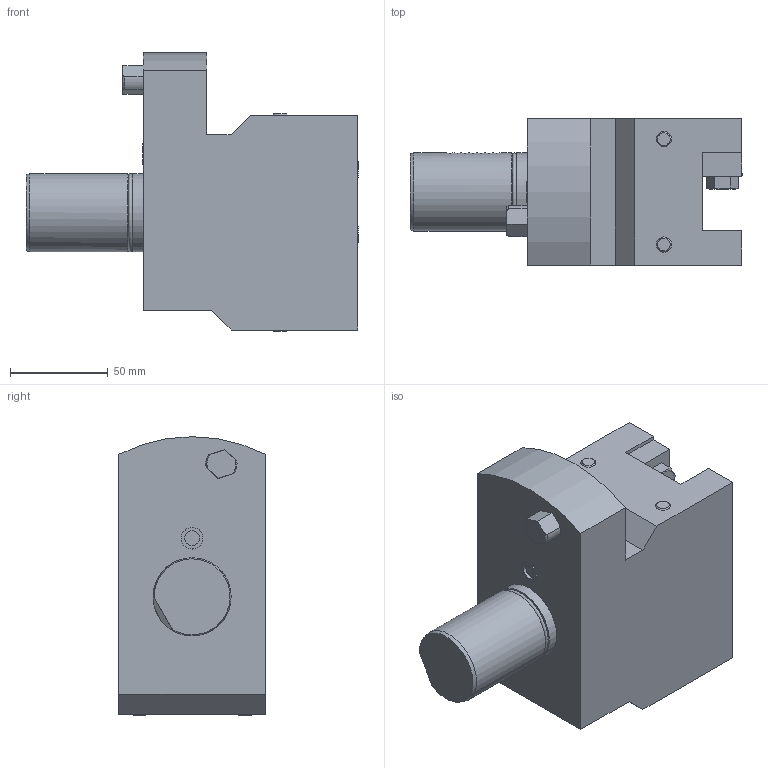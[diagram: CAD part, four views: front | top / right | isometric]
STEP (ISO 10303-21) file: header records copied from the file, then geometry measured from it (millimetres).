
FILE_DESCRIPTION(/* description */ (''),/* implementation_level */ '2;1');
FILE_NAME(/* name */ '118000',/* time_stamp */ '2020-12-22T08:06:11+01:00',/* author */ (''),/* organization */ (''),/* preprocessor_version */ 'ST-DEVELOPER v16.5',/* originating_system */ 'HiCAD 2017 2201.0 Build 268',/* authorisation */ '');
FILE_SCHEMA (('AUTOMOTIVE_DESIGN { 1 0 10303 214 1 1 1 1 }'));
Length unit declared in the file: millimetre
Products named in the file (2): Root; Teil
Assembly tree (1 placements, depth 2):
  Root
    Teil
Bounding box: 170 x 75.1 x 142.66 mm (x, y, z)
Volume: 943609.2 mm3; surface area: 77598.1 mm2
Topology: 1 solids, 3 shells, 283 faces, 706 edges, 468 vertices
Faces by surface type: plane 197, bspline 46, cylinder 23, cone 10, sphere 4, torus 3
Full cylindrical faces by diameter (mm): 6.6 x2, 7.65 x1, 10 x2, 11 x2, 11.01 x1, 11.1 x1, 36.5 x2, 40 x2
Entity records: 17505 total; most frequent: CARTESIAN_POINT 3914, PRESENTATION_STYLE_ASSIGNMENT 1462, OVER_RIDING_STYLED_ITEM 1461, COLOUR_RGB 1332, DRAUGHTING_PRE_DEFINED_CURVE_FONT 1330, CURVE_STYLE 1330, ORIENTED_EDGE 1330, DIRECTION 1092
